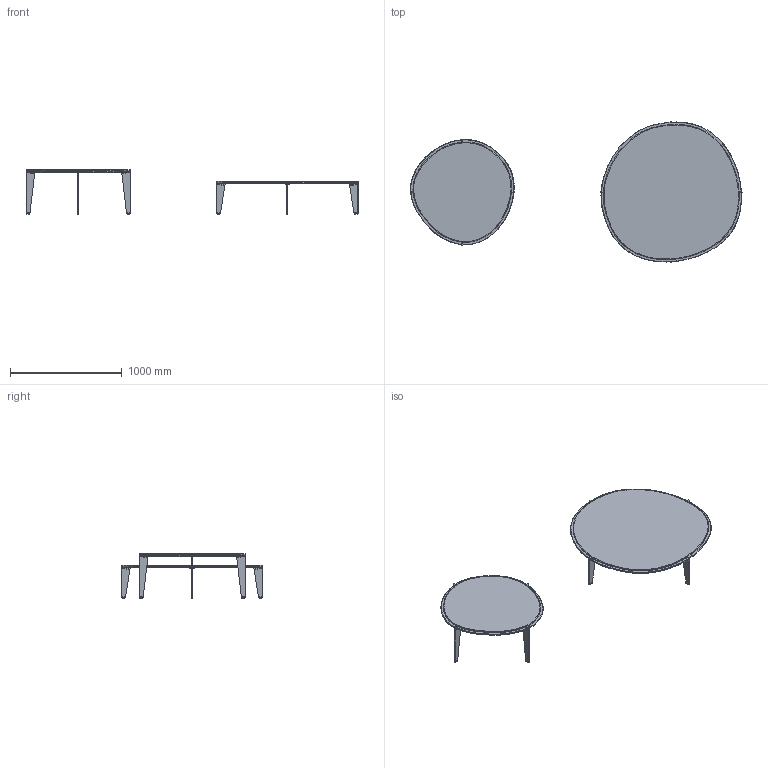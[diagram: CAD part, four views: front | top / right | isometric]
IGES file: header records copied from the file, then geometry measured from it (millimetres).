
Global section: file name: C:\Users\l.marzoli\Desktop\3D_2024\x-web\HALO-coffee-table\3D_HALO-coffee-table.igs; native system: Rhinoceros ( Aug 11 2021 ); preprocessor: Trout Lake IGES 012 Aug 11 2021; date: 240429.104211; units: millimetre
Bounding box: 2973.2 x 1262.11 x 397 mm (x, y, z)
Surface area: 4547740.1 mm2 (no closed solid volume)
Topology: 0 solids, 0 shells, 1708 faces, 9056 edges, 8816 vertices
Faces by surface type: bspline 1708
